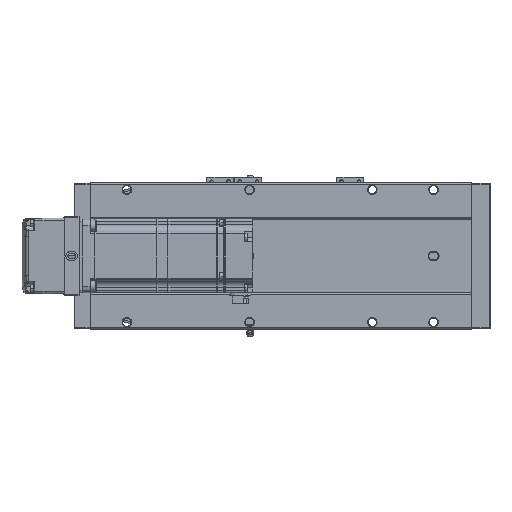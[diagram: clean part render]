
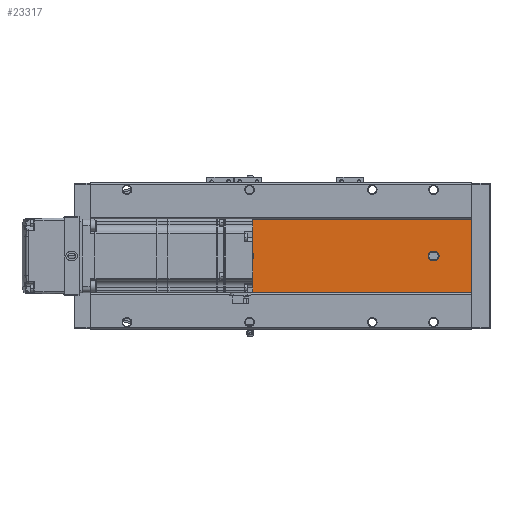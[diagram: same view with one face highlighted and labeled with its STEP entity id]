
A CAD part, front view. The second image highlights one B-rep face of the part: STEP entity #23317.
In plain terms, the highlighted planar face has unit normal (0, -1, 0).
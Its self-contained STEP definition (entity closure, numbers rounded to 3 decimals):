
#373 = EDGE_LOOP ( 'NONE', ( #44680, #26237 ) ) ;
#1242 = DIRECTION ( 'NONE',  ( 0., 0., -1. ) ) ;
#1410 = CARTESIAN_POINT ( 'NONE',  ( -39.892, -52.848, 26.5 ) ) ;
#1900 = CIRCLE ( 'NONE', #37547, 3.5 ) ;
#2699 = CARTESIAN_POINT ( 'NONE',  ( -39.892, -52.848, 281. ) ) ;
#3382 = EDGE_CURVE ( 'NONE', #31926, #69208, #25364, .T. ) ;
#3912 = EDGE_CURVE ( 'NONE', #46308, #39589, #7167, .T. ) ;
#3941 = DIRECTION ( 'NONE',  ( 0., 0., 1. ) ) ;
#4443 = DIRECTION ( 'NONE',  ( 0., 1., 0. ) ) ;
#4580 = CARTESIAN_POINT ( 'NONE',  ( -43.392, -52.848, 30. ) ) ;
#4911 = AXIS2_PLACEMENT_3D ( 'NONE', #45654, #56605, #54874 ) ;
#4972 = AXIS2_PLACEMENT_3D ( 'NONE', #26983, #49394, #16300 ) ;
#5080 = VERTEX_POINT ( 'NONE', #55588 ) ;
#5439 = CIRCLE ( 'NONE', #42403, 3.5 ) ;
#6153 = ORIENTED_EDGE ( 'NONE', *, *, #55798, .T. ) ;
#6502 = CARTESIAN_POINT ( 'NONE',  ( -69.892, -52.848, 311. ) ) ;
#7167 = LINE ( 'NONE', #43414, #20157 ) ;
#7255 = CIRCLE ( 'NONE', #4972, 3.5 ) ;
#7671 = AXIS2_PLACEMENT_3D ( 'NONE', #2699, #52429, #30702 ) ;
#8259 = DIRECTION ( 'NONE',  ( 0., 0., -1. ) ) ;
#9513 = VERTEX_POINT ( 'NONE', #52545 ) ;
#9534 = ORIENTED_EDGE ( 'NONE', *, *, #40429, .F. ) ;
#9622 = DIRECTION ( 'NONE',  ( 0., 0., -1. ) ) ;
#10666 = VERTEX_POINT ( 'NONE', #58288 ) ;
#10694 = DIRECTION ( 'NONE',  ( 1., 0., 0. ) ) ;
#11018 = ORIENTED_EDGE ( 'NONE', *, *, #28321, .T. ) ;
#11100 = CARTESIAN_POINT ( 'NONE',  ( -69.892, -52.848, 0. ) ) ;
#14088 = FACE_BOUND ( 'NONE', #14772, .T. ) ;
#14772 = EDGE_LOOP ( 'NONE', ( #70830, #19058, #6153, #45865, #71456 ) ) ;
#15664 = ORIENTED_EDGE ( 'NONE', *, *, #43397, .T. ) ;
#16300 = DIRECTION ( 'NONE',  ( 0., 0., 1. ) ) ;
#19058 = ORIENTED_EDGE ( 'NONE', *, *, #64720, .T. ) ;
#19570 = CIRCLE ( 'NONE', #4911, 3.5 ) ;
#20157 = VECTOR ( 'NONE', #60664, 1000. ) ;
#20373 = DIRECTION ( 'NONE',  ( 0., 1., 0. ) ) ;
#20805 = EDGE_CURVE ( 'NONE', #56919, #57035, #24313, .T. ) ;
#21892 = VECTOR ( 'NONE', #1242, 1000. ) ;
#23317 = ADVANCED_FACE ( 'NONE', ( #14088, #71047, #55544, #26202 ), #43390, .F. ) ;
#23974 = EDGE_CURVE ( 'NONE', #10666, #50898, #1900, .T. ) ;
#24313 = CIRCLE ( 'NONE', #7671, 3.5 ) ;
#25364 = LINE ( 'NONE', #55760, #21892 ) ;
#25487 = CARTESIAN_POINT ( 'NONE',  ( -69.892, -52.848, 0. ) ) ;
#25742 = LINE ( 'NONE', #25487, #52475 ) ;
#26202 = FACE_OUTER_BOUND ( 'NONE', #56694, .T. ) ;
#26237 = ORIENTED_EDGE ( 'NONE', *, *, #20805, .T. ) ;
#26603 = ORIENTED_EDGE ( 'NONE', *, *, #3382, .T. ) ;
#26983 = CARTESIAN_POINT ( 'NONE',  ( -39.892, -52.848, 281. ) ) ;
#27437 = DIRECTION ( 'NONE',  ( 0., 0., 1. ) ) ;
#28321 = EDGE_CURVE ( 'NONE', #50898, #10666, #19570, .T. ) ;
#28732 = CARTESIAN_POINT ( 'NONE',  ( -39.892, -52.848, 30. ) ) ;
#29005 = LINE ( 'NONE', #44027, #66938 ) ;
#29301 = CARTESIAN_POINT ( 'NONE',  ( -9.892, -52.848, 311. ) ) ;
#30569 = EDGE_CURVE ( 'NONE', #45566, #46308, #42683, .T. ) ;
#30702 = DIRECTION ( 'NONE',  ( 0., 0., 1. ) ) ;
#31926 = VERTEX_POINT ( 'NONE', #6502 ) ;
#32172 = CARTESIAN_POINT ( 'NONE',  ( -39.892, -52.848, 32. ) ) ;
#32924 = AXIS2_PLACEMENT_3D ( 'NONE', #43141, #4443, #27437 ) ;
#36835 = CARTESIAN_POINT ( 'NONE',  ( -39.892, -52.848, 181. ) ) ;
#36874 = CARTESIAN_POINT ( 'NONE',  ( -39.892, -52.848, 284.5 ) ) ;
#37046 = CARTESIAN_POINT ( 'NONE',  ( -39.892, -52.848, 30. ) ) ;
#37370 = CARTESIAN_POINT ( 'NONE',  ( -39.892, -52.848, 277.5 ) ) ;
#37460 = VECTOR ( 'NONE', #10694, 1000. ) ;
#37547 = AXIS2_PLACEMENT_3D ( 'NONE', #36835, #58297, #41940 ) ;
#38328 = VERTEX_POINT ( 'NONE', #56097 ) ;
#38885 = DIRECTION ( 'NONE',  ( 0., 0., 1. ) ) ;
#39589 = VERTEX_POINT ( 'NONE', #50166 ) ;
#40429 = EDGE_CURVE ( 'NONE', #49970, #38328, #29005, .T. ) ;
#41535 = EDGE_CURVE ( 'NONE', #31926, #49970, #50417, .T. ) ;
#41940 = DIRECTION ( 'NONE',  ( 0., 0., 1. ) ) ;
#42165 = DIRECTION ( 'NONE',  ( 1., 0., 0. ) ) ;
#42403 = AXIS2_PLACEMENT_3D ( 'NONE', #28732, #44694, #38885 ) ;
#42683 = CIRCLE ( 'NONE', #62410, 3.5 ) ;
#43141 = CARTESIAN_POINT ( 'NONE',  ( -69.892, -52.848, 311. ) ) ;
#43390 = PLANE ( 'NONE',  #32924 ) ;
#43397 = EDGE_CURVE ( 'NONE', #69208, #38328, #25742, .T. ) ;
#43414 = CARTESIAN_POINT ( 'NONE',  ( -43.392, -52.848, 311. ) ) ;
#43519 = DIRECTION ( 'NONE',  ( 0., 1., 0. ) ) ;
#43804 = LINE ( 'NONE', #63284, #50703 ) ;
#44027 = CARTESIAN_POINT ( 'NONE',  ( -9.892, -52.848, 311. ) ) ;
#44680 = ORIENTED_EDGE ( 'NONE', *, *, #66790, .T. ) ;
#44694 = DIRECTION ( 'NONE',  ( 0., 1., 0. ) ) ;
#45566 = VERTEX_POINT ( 'NONE', #1410 ) ;
#45654 = CARTESIAN_POINT ( 'NONE',  ( -39.892, -52.848, 181. ) ) ;
#45865 = ORIENTED_EDGE ( 'NONE', *, *, #30569, .T. ) ;
#46004 = ORIENTED_EDGE ( 'NONE', *, *, #23974, .T. ) ;
#46308 = VERTEX_POINT ( 'NONE', #4580 ) ;
#48356 = DIRECTION ( 'NONE',  ( 0., 0., 1. ) ) ;
#49394 = DIRECTION ( 'NONE',  ( 0., 1., 0. ) ) ;
#49970 = VERTEX_POINT ( 'NONE', #29301 ) ;
#50166 = CARTESIAN_POINT ( 'NONE',  ( -43.392, -52.848, 32. ) ) ;
#50417 = LINE ( 'NONE', #71239, #37460 ) ;
#50703 = VECTOR ( 'NONE', #8259, 1000. ) ;
#50898 = VERTEX_POINT ( 'NONE', #52072 ) ;
#52072 = CARTESIAN_POINT ( 'NONE',  ( -39.892, -52.848, 177.5 ) ) ;
#52429 = DIRECTION ( 'NONE',  ( 0., 1., 0. ) ) ;
#52475 = VECTOR ( 'NONE', #42165, 1000. ) ;
#52545 = CARTESIAN_POINT ( 'NONE',  ( -36.392, -52.848, 32. ) ) ;
#54194 = EDGE_CURVE ( 'NONE', #39589, #9513, #65269, .T. ) ;
#54874 = DIRECTION ( 'NONE',  ( 0., 0., 1. ) ) ;
#55544 = FACE_BOUND ( 'NONE', #373, .T. ) ;
#55588 = CARTESIAN_POINT ( 'NONE',  ( -36.392, -52.848, 30. ) ) ;
#55760 = CARTESIAN_POINT ( 'NONE',  ( -69.892, -52.848, 311. ) ) ;
#55798 = EDGE_CURVE ( 'NONE', #5080, #45566, #5439, .T. ) ;
#56097 = CARTESIAN_POINT ( 'NONE',  ( -9.892, -52.848, 0. ) ) ;
#56605 = DIRECTION ( 'NONE',  ( 0., 1., 0. ) ) ;
#56694 = EDGE_LOOP ( 'NONE', ( #15664, #9534, #67085, #26603 ) ) ;
#56919 = VERTEX_POINT ( 'NONE', #36874 ) ;
#57035 = VERTEX_POINT ( 'NONE', #37370 ) ;
#58288 = CARTESIAN_POINT ( 'NONE',  ( -39.892, -52.848, 184.5 ) ) ;
#58297 = DIRECTION ( 'NONE',  ( 0., 1., 0. ) ) ;
#60664 = DIRECTION ( 'NONE',  ( 0., 0., 1. ) ) ;
#61358 = EDGE_LOOP ( 'NONE', ( #11018, #46004 ) ) ;
#61658 = AXIS2_PLACEMENT_3D ( 'NONE', #32172, #43519, #48356 ) ;
#62410 = AXIS2_PLACEMENT_3D ( 'NONE', #37046, #20373, #3941 ) ;
#63284 = CARTESIAN_POINT ( 'NONE',  ( -36.392, -52.848, 311. ) ) ;
#64720 = EDGE_CURVE ( 'NONE', #9513, #5080, #43804, .T. ) ;
#65269 = CIRCLE ( 'NONE', #61658, 3.5 ) ;
#66790 = EDGE_CURVE ( 'NONE', #57035, #56919, #7255, .T. ) ;
#66938 = VECTOR ( 'NONE', #9622, 1000. ) ;
#67085 = ORIENTED_EDGE ( 'NONE', *, *, #41535, .F. ) ;
#69208 = VERTEX_POINT ( 'NONE', #11100 ) ;
#70830 = ORIENTED_EDGE ( 'NONE', *, *, #54194, .T. ) ;
#71047 = FACE_BOUND ( 'NONE', #61358, .T. ) ;
#71239 = CARTESIAN_POINT ( 'NONE',  ( -69.892, -52.848, 311. ) ) ;
#71456 = ORIENTED_EDGE ( 'NONE', *, *, #3912, .T. ) ;
